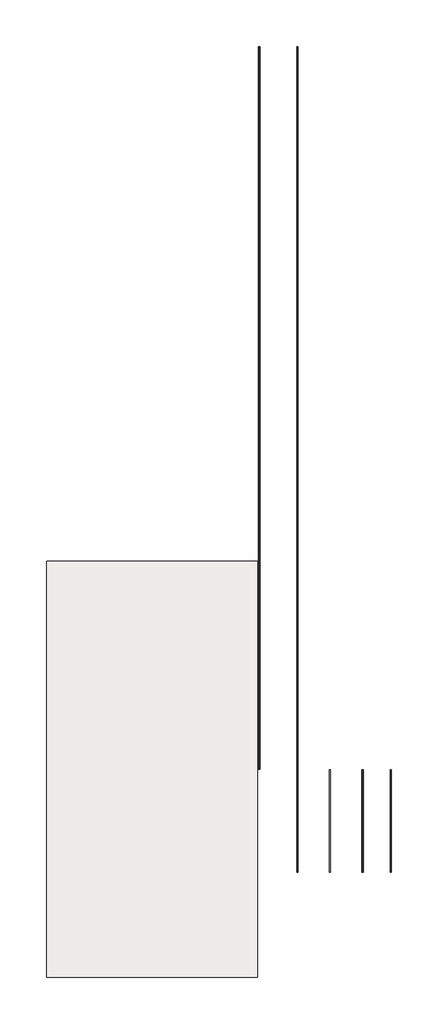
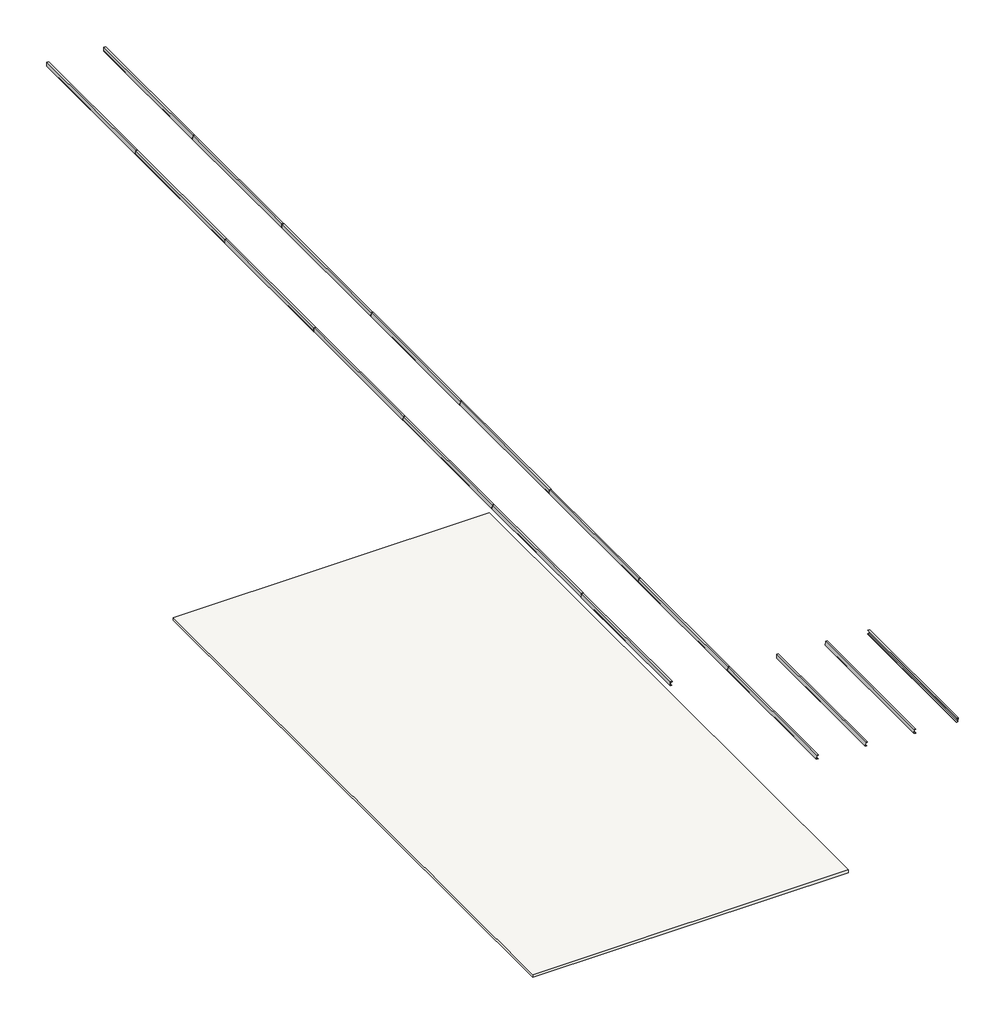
# One storey: 18 beams, 1 slab.
"""IFC4 building model written with IfcOpenShell, lengths in millimetres."""

import ifcopenshell
import ifcopenshell.guid

model = None  # the IFC model being written
_history = None  # IfcOwnerHistory: only IFC2X3 demands one
_inside = {}  # id of a spatial element -> (the spatial element, [elements in it])
_under = {}  # id of a project, library or spatial element -> (it, [spatial elements below it])
_declared = {}  # id of a project -> (the project, [libraries it declares])
_typed = {}  # id of a type object -> (the type object, [elements of that type])
_made_of = {}  # id of a material, layer set ... -> (it, [elements and type objects made of it])


def new_model(schema):
    """Start an empty IFC model of exactly this schema.

    Asked for "IFC4X3", IfcOpenShell would pick the latest addendum, in which some entities
    have other attributes; the version numbers below select the first issue.
    IFC2X3 requires an IfcOwnerHistory on every rooted entity: one is made here for all.
    """
    global model, _history
    if schema == "IFC4X3":
        model = ifcopenshell.file(schema_version=(4, 3, 0, 0))
    else:
        model = ifcopenshell.file(schema=schema)
    _inside.clear()
    _under.clear()
    _declared.clear()
    _typed.clear()
    _made_of.clear()
    _history = None
    if model.schema == "IFC2X3":
        org = make("IfcOrganization", Name="unknown")
        user = make(
            "IfcPersonAndOrganization",
            ThePerson=make("IfcPerson", FamilyName="unknown"),
            TheOrganization=org,
        )
        app = make(
            "IfcApplication",
            ApplicationDeveloper=org,
            Version="unknown",
            ApplicationFullName="unknown",
            ApplicationIdentifier="unknown",
        )
        _history = make(
            "IfcOwnerHistory",
            OwningUser=user,
            OwningApplication=app,
            ChangeAction="ADDED",
            CreationDate=0,
        )
    return model


def make(cls, **values):
    """One entity of the class cls with the attributes given. An attribute that is None is left unset."""
    return model.create_entity(
        cls, **{name: value for name, value in values.items() if value is not None}
    )


def rooted(cls, **values):
    """An entity with a GlobalId (a new one), such as an element, a storey or a relation."""
    return make(cls, GlobalId=ifcopenshell.guid.new(), OwnerHistory=_history, **values)


def si_unit(unit_type, name, prefix=None):
    """IfcSIUnit, for example si_unit("LENGTHUNIT", "METRE", prefix="MILLI")."""
    return make("IfcSIUnit", UnitType=unit_type, Prefix=prefix, Name=name)


def assignment(units):
    """IfcUnitAssignment: the units of a project."""
    return None if units is None else make("IfcUnitAssignment", Units=units)


def point(xyz):
    """IfcCartesianPoint."""
    return None if xyz is None else make("IfcCartesianPoint", Coordinates=xyz)


def direction(xyz):
    """IfcDirection."""
    return None if xyz is None else make("IfcDirection", DirectionRatios=xyz)


def frame(location, z_axis=None, x_axis=None):
    """IfcAxis2Placement3D, a coordinate frame: its origin and axes. An axis left out is left unset."""
    return make(
        "IfcAxis2Placement3D",
        Location=point(location),
        Axis=direction(z_axis),
        RefDirection=direction(x_axis),
    )


def frame_2d(location, x_axis=None):
    """IfcAxis2Placement2D, a coordinate frame in the plane: its origin and x axis."""
    return make(
        "IfcAxis2Placement2D", Location=point(location), RefDirection=direction(x_axis)
    )


def origin():
    """The frame at (0, 0, 0) with its axes left unset."""
    return frame((0.0, 0.0, 0.0))


def place(relative_to, where):
    """IfcLocalPlacement: puts the frame where relative to a parent placement (None: the world)."""
    return make(
        "IfcLocalPlacement", PlacementRelTo=relative_to, RelativePlacement=where
    )


def context(
    kind, dimensions, precision=None, world=None, true_north=None, identifier=None
):
    """IfcGeometricRepresentationContext, for example the 3D "Model" context."""
    return make(
        "IfcGeometricRepresentationContext",
        ContextIdentifier=identifier,
        ContextType=kind,
        CoordinateSpaceDimension=dimensions,
        Precision=precision,
        WorldCoordinateSystem=world,
        TrueNorth=true_north,
    )


def project(units=None, contexts=None):
    """IfcProject with its units and contexts."""
    return rooted(
        "IfcProject",
        Name="project",
        RepresentationContexts=contexts,
        UnitsInContext=assignment(units),
    )


def spatial(cls, under=None, at=None, **own):
    """A site, building, storey or space (cls), placed at a placement, below another one or the project."""
    s = rooted(cls, ObjectPlacement=at, **own)
    if under is not None:
        _under.setdefault(under.id(), (under, []))[1].append(s)
    return s


def polyline(points):
    """IfcPolyline through the points."""
    return make("IfcPolyline", Points=[point(p) for p in points])


def circle_curve(where, radius):
    """IfcCircle in the frame where."""
    return make("IfcCircle", Position=where, Radius=radius)


def trimmed(basis, trim1, trim2, sense, master):
    """IfcTrimmedCurve: the piece of a basis curve between two trims."""
    return make(
        "IfcTrimmedCurve",
        BasisCurve=basis,
        Trim1=trim1,
        Trim2=trim2,
        SenseAgreement=sense,
        MasterRepresentation=master,
    )


def segment(curve, same_sense, transition):
    """IfcCompositeCurveSegment."""
    return make(
        "IfcCompositeCurveSegment",
        Transition=transition,
        SameSense=same_sense,
        ParentCurve=curve,
    )


def composite_curve(segments, self_intersect=None):
    """IfcCompositeCurve: segments joined end to end."""
    return make("IfcCompositeCurve", Segments=segments, SelfIntersect=self_intersect)


def outline(outer, holes=None, kind="AREA"):
    """IfcArbitraryClosedProfileDef: a profile drawn as a closed curve; with holes, ...WithVoids."""
    if holes is None:
        return make("IfcArbitraryClosedProfileDef", ProfileType=kind, OuterCurve=outer)
    return make(
        "IfcArbitraryProfileDefWithVoids",
        ProfileType=kind,
        OuterCurve=outer,
        InnerCurves=holes,
    )


def extrude(swept, where, along, depth):
    """IfcExtrudedAreaSolid: the profile swept, set in the frame where, extruded along a direction by depth."""
    return make(
        "IfcExtrudedAreaSolid",
        SweptArea=swept,
        Position=where,
        ExtrudedDirection=direction(along),
        Depth=depth,
    )


def shape(context_of_items, identifier, shape_type, items):
    """IfcShapeRepresentation: the items that make up one representation, for example the "Body"."""
    return make(
        "IfcShapeRepresentation",
        ContextOfItems=context_of_items,
        RepresentationIdentifier=identifier,
        RepresentationType=shape_type,
        Items=items,
    )


def source(mapping_origin, context_of_items, identifier, shape_type, items):
    """IfcRepresentationMap: a shape defined once, which mapped items show again and again."""
    return make(
        "IfcRepresentationMap",
        MappingOrigin=mapping_origin,
        MappedRepresentation=shape(context_of_items, identifier, shape_type, items),
    )


def transform(
    local_origin,
    x_axis=None,
    y_axis=None,
    z_axis=None,
    scale=None,
    scale2=None,
    scale3=None,
    uniform=True,
):
    """IfcCartesianTransformationOperator3D, or its non-uniform kind. x_axis, y_axis, z_axis: its Axis1, 2, 3."""
    if uniform:
        return make(
            "IfcCartesianTransformationOperator3D",
            Axis1=direction(x_axis),
            Axis2=direction(y_axis),
            LocalOrigin=point(local_origin),
            Scale=scale,
            Axis3=direction(z_axis),
        )
    return make(
        "IfcCartesianTransformationOperator3DnonUniform",
        Axis1=direction(x_axis),
        Axis2=direction(y_axis),
        LocalOrigin=point(local_origin),
        Scale=scale,
        Axis3=direction(z_axis),
        Scale2=scale2,
        Scale3=scale3,
    )


def mapped(mapping_source, mapping_target):
    """IfcMappedItem: shows the shape of a source again, moved by a transform."""
    return make(
        "IfcMappedItem", MappingSource=mapping_source, MappingTarget=mapping_target
    )


def made_of(thing, what):
    """Note that an element or type object is made of a material, layer set ...; save() writes the relation."""
    if what is not None:
        _made_of.setdefault(what.id(), (what, []))[1].append(thing)
    return thing


def element(
    cls,
    number,
    at=None,
    inside=None,
    cuts=None,
    type_object=None,
    material=None,
    context=None,
    identifier="Body",
    shape_type=None,
    held_by="IfcProductDefinitionShape",
    body=None,
    shapes=None,
    **own,
):
    """One element of the class cls, such as IfcWall. Its Tag is "e" and its number.

    at: its placement. inside: the storey or other place that contains it. cuts: it is an
    opening in that element (IfcRelVoidsElement). A single representation is given by context,
    identifier, shape_type and body (its items); several are given by shapes. held_by: the class
    of the entity that holds the representations. save() writes the other relations.
    """
    e = rooted(cls, Tag="e%d" % number, ObjectPlacement=at, **own)
    if body is not None:
        shapes = [shape(context, identifier, shape_type, body)]
    if shapes is not None:
        e.Representation = make(held_by, Representations=shapes)
    if inside is not None:
        _inside.setdefault(inside.id(), (inside, []))[1].append(e)
    if cuts is not None:
        rooted(
            "IfcRelVoidsElement", RelatingBuildingElement=cuts, RelatedOpeningElement=e
        )
    if type_object is not None:
        _typed.setdefault(type_object.id(), (type_object, []))[1].append(e)
    return made_of(e, material)


def aggregate(whole, parts):
    """IfcRelAggregates: a whole, such as a stair, and the parts it consists of."""
    return rooted("IfcRelAggregates", RelatingObject=whole, RelatedObjects=parts)


def save(model, path):
    """Write the relations noted so far, then the file.

    IfcRelAggregates (storeys below a building ...), IfcRelContainedInSpatialStructure (elements
    in a storey), IfcRelDefinesByType, IfcRelAssociatesMaterial and IfcRelDeclares: one each for
    every whole, place, type object, material and project.
    """
    for whole, parts in _under.values():
        aggregate(whole, parts)
    for where, things in _inside.values():
        rooted(
            "IfcRelContainedInSpatialStructure",
            RelatedElements=things,
            RelatingStructure=where,
        )
    for kind, things in _typed.values():
        rooted("IfcRelDefinesByType", RelatedObjects=things, RelatingType=kind)
    for what, things in _made_of.values():
        rooted("IfcRelAssociatesMaterial", RelatedObjects=things, RelatingMaterial=what)
    for by, libraries in _declared.values():
        rooted("IfcRelDeclares", RelatingContext=by, RelatedDefinitions=libraries)
    model.write(path)


def c160_97cef8d6(model_context):
    return source(origin(), model_context, "Body", "SweptSolid", [
        extrude(outline(composite_curve([segment(polyline([(18.4, 80.0), (18.4, -80.0), (-46.6, -80.0)]), True, "CONTINUOUS"), segment(trimmed(circle_curve(frame_2d((-36.1, -80.0)), 10.5), [point((-46.6, -80.0))], [point((-36.1, -69.5))], False, "CARTESIAN"), True, "CONTINUOUS"), segment(polyline([(-36.1, -69.5), (10.9, -62.0559313), (10.9, 62.0559313), (-36.1, 69.5)]), True, "CONTINUOUS"), segment(trimmed(circle_curve(frame_2d((-36.1, 80.0)), 10.5), [point((-36.1, 69.5))], [point((-46.6, 80.0))], False, "CARTESIAN"), True, "CONTINUOUS"), segment(polyline([(-46.6, 80.0), (18.4, 80.0)]), True, "CONTINUOUS")], self_intersect=False)), frame((-2992.5, 0.0, 0.0), z_axis=(1.0, 0.0, 0.0), x_axis=(0.0, 1.0, 0.0)), (0.0, 0.0, 1.0), 5972.2999994),
    ])


def c160_676f0d43(model_context):
    return source(origin(), model_context, "Body", "SweptSolid", [
        extrude(outline(composite_curve([segment(polyline([(18.4, 80.0), (18.4, -80.0), (-46.6, -80.0)]), True, "CONTINUOUS"), segment(trimmed(circle_curve(frame_2d((-36.1, -80.0)), 10.5), [point((-46.6, -80.0))], [point((-36.1, -69.5))], False, "CARTESIAN"), True, "CONTINUOUS"), segment(polyline([(-36.1, -69.5), (10.9, -62.0559313), (10.9, 62.0559313), (-36.1, 69.5)]), True, "CONTINUOUS"), segment(trimmed(circle_curve(frame_2d((-36.1, 80.0)), 10.5), [point((-36.1, 69.5))], [point((-46.6, 80.0))], False, "CARTESIAN"), True, "CONTINUOUS"), segment(polyline([(-46.6, 80.0), (18.4, 80.0)]), True, "CONTINUOUS")], self_intersect=False)), frame((-2979.7999994, 0.0, 0.0), z_axis=(1.0, 0.0, 0.0), x_axis=(0.0, 1.0, 0.0)), (0.0, 0.0, 1.0), 5972.2999994),
    ])


def c160_1365dad8(model_context):
    return source(origin(), model_context, "Body", "SweptSolid", [
        extrude(outline(composite_curve([segment(polyline([(18.4, 80.0), (18.4, -80.0), (-46.6, -80.0)]), True, "CONTINUOUS"), segment(trimmed(circle_curve(frame_2d((-36.1, -80.0)), 10.5), [point((-46.6, -80.0))], [point((-36.1, -69.5))], False, "CARTESIAN"), True, "CONTINUOUS"), segment(polyline([(-36.1, -69.5), (10.9, -62.0559313), (10.9, 62.0559313), (-36.1, 69.5)]), True, "CONTINUOUS"), segment(trimmed(circle_curve(frame_2d((-36.1, 80.0)), 10.5), [point((-36.1, 69.5))], [point((-46.6, 80.0))], False, "CARTESIAN"), True, "CONTINUOUS"), segment(polyline([(-46.6, 80.0), (18.4, 80.0)]), True, "CONTINUOUS")], self_intersect=False)), frame((-2992.5, 0.0, 0.0), z_axis=(1.0, 0.0, 0.0), x_axis=(0.0, 1.0, 0.0)), (0.0, 0.0, 1.0), 5985.0),
    ])


model = new_model("IFC4")

# Units and contexts
model_context = context("Model", 3, world=origin())
ifc_project = project(units=[si_unit("LENGTHUNIT", "METRE", prefix="MILLI")], contexts=[model_context])

# Site, building, storey
site = spatial("IfcSite", under=ifc_project)
building = spatial("IfcBuilding", under=site)
storey = spatial("IfcBuildingStorey", under=building, Name="+4,02 Poziom stropu", Elevation=4020.0)

# Beams
placement = place(None, origin())
c160_shape = c160_97cef8d6(model_context)
element("IfcBeam", 1, ObjectType="RPLN C - Ceowniki normalne : C160", at=placement, inside=storey, context=model_context, shape_type="MappedRepresentation", body=[
    mapped(c160_shape, transform((6344.3186079, -27912.4816585, 4151.1940138), x_axis=(0.0, 1.0, 0.0), y_axis=(-0.997461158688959, 0.0, 0.07121261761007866), z_axis=(0.07121261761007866, 0.0, 0.997461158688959))),
])
element("IfcBeam", 2, ObjectType="RPLN C - Ceowniki normalne : C160", at=placement, inside=storey, context=model_context, shape_type="MappedRepresentation", body=[
    mapped(c160_shape, transform((8239.4941285, -27912.4816585, 4015.890089), x_axis=(0.0, 1.0, 0.0), y_axis=(-0.997461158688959, 0.0, 0.07121261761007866), z_axis=(0.07121261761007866, 0.0, 0.997461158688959))),
])
element("IfcBeam", 3, ObjectType="RPLN C - Ceowniki normalne : C160", at=placement, inside=storey, context=model_context, shape_type="MappedRepresentation", body=[
    mapped(c160_shape, transform((10134.6671984, -27912.4816585, 3880.5863391), x_axis=(0.0, 1.0, 0.0), y_axis=(-0.997461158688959, 0.0, 0.07121261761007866), z_axis=(0.07121261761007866, 0.0, 0.997461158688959))),
])
c160_2_shape = c160_676f0d43(model_context)
element("IfcBeam", 4, ObjectType="RPLN C - Ceowniki normalne : C160", at=placement, inside=storey, context=model_context, shape_type="MappedRepresentation", body=[
    mapped(c160_2_shape, transform((4123.7030851, 14087.5183415, 4309.7323616), x_axis=(0.0, 1.0, 0.0), y_axis=(-0.997461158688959, 0.0, 0.07121261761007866), z_axis=(0.07121261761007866, 0.0, 0.997461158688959))),
])
element("IfcBeam", 5, ObjectType="RPLN C - Ceowniki normalne : C160", at=placement, inside=storey, context=model_context, shape_type="MappedRepresentation", body=[
    mapped(c160_2_shape, transform((6344.3186079, 14087.5183415, 4151.1940138), x_axis=(0.0, 1.0, 0.0), y_axis=(-0.997461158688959, 0.0, 0.07121261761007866), z_axis=(0.07121261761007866, 0.0, 0.997461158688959))),
])
element("IfcBeam", 6, ObjectType="RPLN C - Ceowniki normalne : C160", at=placement, inside=storey, context=model_context, shape_type="MappedRepresentation", body=[
    mapped(c160_shape, transform((4123.7030851, -21912.4816585, 4309.7323616), x_axis=(0.0, 1.0, 0.0), y_axis=(-0.997461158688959, 0.0, 0.07121261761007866), z_axis=(0.07121261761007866, 0.0, 0.997461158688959))),
])
element("IfcBeam", 7, ObjectType="RPLN C - Ceowniki normalne : C160", at=placement, inside=storey, context=model_context, shape_type="MappedRepresentation", body=[
    mapped(c160_shape, transform((6344.3186079, -21912.4816585, 4151.1940138), x_axis=(0.0, 1.0, 0.0), y_axis=(-0.997461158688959, 0.0, 0.07121261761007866), z_axis=(0.07121261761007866, 0.0, 0.997461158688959))),
])
element("IfcBeam", 8, ObjectType="RPLN C - Ceowniki normalne : C160", at=placement, inside=storey, context=model_context, shape_type="MappedRepresentation", body=[
    mapped(c160_shape, transform((4123.7030851, -15912.4816585, 4309.7323616), x_axis=(0.0, 1.0, 0.0), y_axis=(-0.997461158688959, 0.0, 0.07121261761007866), z_axis=(0.07121261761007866, 0.0, 0.997461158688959))),
])
element("IfcBeam", 9, ObjectType="RPLN C - Ceowniki normalne : C160", at=placement, inside=storey, context=model_context, shape_type="MappedRepresentation", body=[
    mapped(c160_shape, transform((6344.3186079, -15912.4816585, 4151.1940138), x_axis=(0.0, 1.0, 0.0), y_axis=(-0.997461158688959, 0.0, 0.07121261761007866), z_axis=(0.07121261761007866, 0.0, 0.997461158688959))),
])
element("IfcBeam", 10, ObjectType="RPLN C - Ceowniki normalne : C160", at=placement, inside=storey, context=model_context, shape_type="MappedRepresentation", body=[
    mapped(c160_shape, transform((4123.7030851, -9912.4816585, 4309.7323616), x_axis=(0.0, 1.0, 0.0), y_axis=(-0.997461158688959, 0.0, 0.07121261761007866), z_axis=(0.07121261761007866, 0.0, 0.997461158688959))),
])
element("IfcBeam", 11, ObjectType="RPLN C - Ceowniki normalne : C160", at=placement, inside=storey, context=model_context, shape_type="MappedRepresentation", body=[
    mapped(c160_shape, transform((6344.3186079, -9912.4816585, 4151.1940138), x_axis=(0.0, 1.0, 0.0), y_axis=(-0.997461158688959, 0.0, 0.07121261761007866), z_axis=(0.07121261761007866, 0.0, 0.997461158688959))),
])
element("IfcBeam", 12, ObjectType="RPLN C - Ceowniki normalne : C160", at=placement, inside=storey, context=model_context, shape_type="MappedRepresentation", body=[
    mapped(c160_shape, transform((4123.7030851, -3912.4816585, 4309.7323616), x_axis=(0.0, 1.0, 0.0), y_axis=(-0.997461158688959, 0.0, 0.07121261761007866), z_axis=(0.07121261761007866, 0.0, 0.997461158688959))),
])
element("IfcBeam", 13, ObjectType="RPLN C - Ceowniki normalne : C160", at=placement, inside=storey, context=model_context, shape_type="MappedRepresentation", body=[
    mapped(c160_shape, transform((6344.3186079, -3912.4816585, 4151.1940138), x_axis=(0.0, 1.0, 0.0), y_axis=(-0.997461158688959, 0.0, 0.07121261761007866), z_axis=(0.07121261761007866, 0.0, 0.997461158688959))),
])
element("IfcBeam", 14, ObjectType="RPLN C - Ceowniki normalne : C160", at=placement, inside=storey, context=model_context, shape_type="MappedRepresentation", body=[
    mapped(c160_shape, transform((4123.7030851, 2087.5183415, 4309.7323616), x_axis=(0.0, 1.0, 0.0), y_axis=(-0.997461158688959, 0.0, 0.07121261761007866), z_axis=(0.07121261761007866, 0.0, 0.997461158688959))),
])
element("IfcBeam", 15, ObjectType="RPLN C - Ceowniki normalne : C160", at=placement, inside=storey, context=model_context, shape_type="MappedRepresentation", body=[
    mapped(c160_shape, transform((6344.3186079, 2087.5183415, 4151.1940138), x_axis=(0.0, 1.0, 0.0), y_axis=(-0.997461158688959, 0.0, 0.07121261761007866), z_axis=(0.07121261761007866, 0.0, 0.997461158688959))),
])
element("IfcBeam", 16, ObjectType="RPLN C - Ceowniki normalne : C160", at=placement, inside=storey, context=model_context, shape_type="MappedRepresentation", body=[
    mapped(c160_2_shape, transform((11806.0493936, -27912.4816585, 3761.259887), x_axis=(0.0, -1.0, 0.0), y_axis=(0.997461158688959, 0.0, -0.07121261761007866), z_axis=(0.07121261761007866, 0.0, 0.997461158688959))),
])
c160_3_shape = c160_1365dad8(model_context)
element("IfcBeam", 17, ObjectType="RPLN C - Ceowniki normalne : C160", at=placement, inside=storey, context=model_context, shape_type="MappedRepresentation", body=[
    mapped(c160_3_shape, transform((4123.7030851, 8087.5183415, 4309.7323616), x_axis=(0.0, 1.0, 0.0), y_axis=(-0.997461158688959, 0.0, 0.07121261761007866), z_axis=(0.07121261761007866, 0.0, 0.997461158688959))),
])
element("IfcBeam", 18, ObjectType="RPLN C - Ceowniki normalne : C160", at=placement, inside=storey, context=model_context, shape_type="MappedRepresentation", body=[
    mapped(c160_3_shape, transform((6344.3186079, 8087.5183415, 4151.1940138), x_axis=(0.0, 1.0, 0.0), y_axis=(-0.997461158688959, 0.0, 0.07121261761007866), z_axis=(0.07121261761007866, 0.0, 0.997461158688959))),
])

# Slab
element("IfcSlab", 19, ObjectType="Strop zespolony 120mm", at=placement, inside=storey, context=model_context, shape_type="SweptSolid", body=[
    extrude(outline(polyline([(-8233.1111104, -12817.4816585), (4039.0888896, -12817.4816585), (4039.0888896, -37007.4816585), (-8233.1111104, -37007.4816585), (-8233.1111104, -12817.4816585)])), frame((0.0, 0.0, 3900.0), z_axis=(0.0, 0.0, 1.0), x_axis=(1.0, 0.0, 0.0)), (0.0, 0.0, 1.0), 120.0),
])

save(model, "model.ifc")
